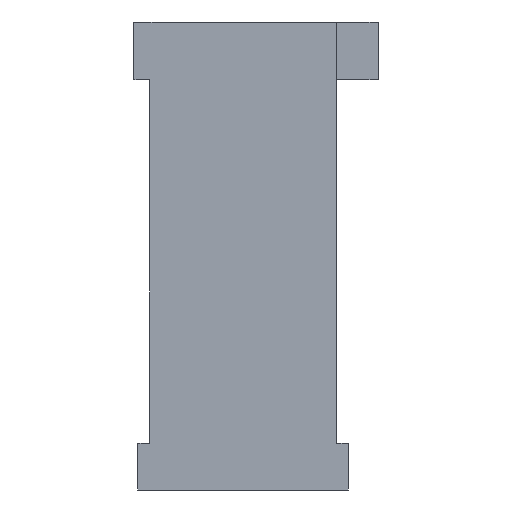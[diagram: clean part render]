
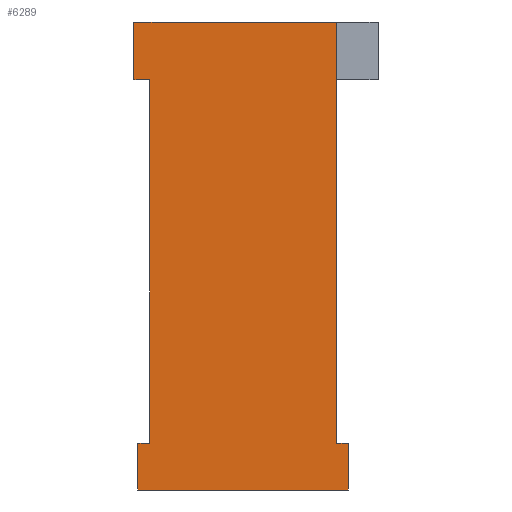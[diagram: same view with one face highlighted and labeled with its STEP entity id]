
A CAD part, left-side view. The second image highlights one B-rep face of the part: STEP entity #6289.
In plain terms, the highlighted planar face has unit normal (-1, 0, 0).
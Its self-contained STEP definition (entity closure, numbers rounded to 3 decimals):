
#134=DIRECTION('',(0.,0.,1.));
#135=VECTOR('',#134,11.836);
#136=CARTESIAN_POINT('',(-12.7,3.048,-13.716));
#137=LINE('',#136,#135);
#138=DIRECTION('',(0.,0.,-1.));
#139=VECTOR('',#138,1.88);
#140=CARTESIAN_POINT('',(-12.7,3.556,0.));
#141=LINE('',#140,#139);
#142=DIRECTION('',(0.,-1.,0.));
#143=VECTOR('',#142,6.604);
#144=CARTESIAN_POINT('',(-12.7,3.556,0.));
#145=LINE('',#144,#143);
#146=DIRECTION('',(0.,0.,-1.));
#147=VECTOR('',#146,13.716);
#148=CARTESIAN_POINT('',(-12.7,-3.048,0.));
#149=LINE('',#148,#147);
#150=DIRECTION('',(0.,-1.,0.));
#151=VECTOR('',#150,0.381);
#152=CARTESIAN_POINT('',(-12.7,-3.048,-13.716));
#153=LINE('',#152,#151);
#154=DIRECTION('',(0.,0.,-1.));
#155=VECTOR('',#154,1.524);
#156=CARTESIAN_POINT('',(-12.7,-3.429,-13.716));
#157=LINE('',#156,#155);
#158=DIRECTION('',(0.,1.,0.));
#159=VECTOR('',#158,6.858);
#160=CARTESIAN_POINT('',(-12.7,-3.429,-15.24));
#161=LINE('',#160,#159);
#162=DIRECTION('',(0.,0.,1.));
#163=VECTOR('',#162,1.524);
#164=CARTESIAN_POINT('',(-12.7,3.429,-15.24));
#165=LINE('',#164,#163);
#166=DIRECTION('',(0.,-1.,0.));
#167=VECTOR('',#166,0.381);
#168=CARTESIAN_POINT('',(-12.7,3.429,-13.716));
#169=LINE('',#168,#167);
#2878=DIRECTION('',(0.,-1.,0.));
#2879=VECTOR('',#2878,0.508);
#2880=CARTESIAN_POINT('',(-12.7,3.556,-1.88));
#2881=LINE('',#2880,#2879);
#4750=CARTESIAN_POINT('',(-12.7,-3.429,-15.24));
#4751=CARTESIAN_POINT('',(-12.7,3.429,-15.24));
#4752=VERTEX_POINT('',#4750);
#4753=VERTEX_POINT('',#4751);
#4754=CARTESIAN_POINT('',(-12.7,3.429,-13.716));
#4755=VERTEX_POINT('',#4754);
#4756=CARTESIAN_POINT('',(-12.7,3.048,-13.716));
#4757=VERTEX_POINT('',#4756);
#4758=CARTESIAN_POINT('',(-12.7,-3.048,0.));
#4759=CARTESIAN_POINT('',(-12.7,-3.048,-13.716));
#4760=VERTEX_POINT('',#4758);
#4761=VERTEX_POINT('',#4759);
#4762=CARTESIAN_POINT('',(-12.7,-3.429,-13.716));
#4763=VERTEX_POINT('',#4762);
#6179=CARTESIAN_POINT('',(-12.7,3.556,0.));
#6181=VERTEX_POINT('',#6179);
#6191=CARTESIAN_POINT('',(-12.7,3.556,-1.88));
#6193=VERTEX_POINT('',#6191);
#6210=CARTESIAN_POINT('',(-12.7,3.048,-1.88));
#6212=VERTEX_POINT('',#6210);
#6262=CARTESIAN_POINT('',(-12.7,0.,0.));
#6263=DIRECTION('',(1.,0.,0.));
#6264=DIRECTION('',(0.,-1.,0.));
#6265=AXIS2_PLACEMENT_3D('',#6262,#6263,#6264);
#6266=PLANE('',#6265);
#6268=ORIENTED_EDGE('',*,*,#6267,.T.);
#6270=ORIENTED_EDGE('',*,*,#6269,.F.);
#6272=ORIENTED_EDGE('',*,*,#6271,.F.);
#6274=ORIENTED_EDGE('',*,*,#6273,.T.);
#6276=ORIENTED_EDGE('',*,*,#6275,.T.);
#6278=ORIENTED_EDGE('',*,*,#6277,.T.);
#6280=ORIENTED_EDGE('',*,*,#6279,.T.);
#6282=ORIENTED_EDGE('',*,*,#6281,.T.);
#6284=ORIENTED_EDGE('',*,*,#6283,.T.);
#6286=ORIENTED_EDGE('',*,*,#6285,.T.);
#6287=EDGE_LOOP('',(#6268,#6270,#6272,#6274,#6276,#6278,#6280,#6282,#6284,
#6286));
#6288=FACE_OUTER_BOUND('',#6287,.F.);
#6267=EDGE_CURVE('',#4757,#6212,#137,.T.);
#6269=EDGE_CURVE('',#6193,#6212,#2881,.T.);
#6271=EDGE_CURVE('',#6181,#6193,#141,.T.);
#6273=EDGE_CURVE('',#6181,#4760,#145,.T.);
#6275=EDGE_CURVE('',#4760,#4761,#149,.T.);
#6277=EDGE_CURVE('',#4761,#4763,#153,.T.);
#6279=EDGE_CURVE('',#4763,#4752,#157,.T.);
#6281=EDGE_CURVE('',#4752,#4753,#161,.T.);
#6283=EDGE_CURVE('',#4753,#4755,#165,.T.);
#6285=EDGE_CURVE('',#4755,#4757,#169,.T.);
#6289=ADVANCED_FACE('',(#6288),#6266,.F.);
